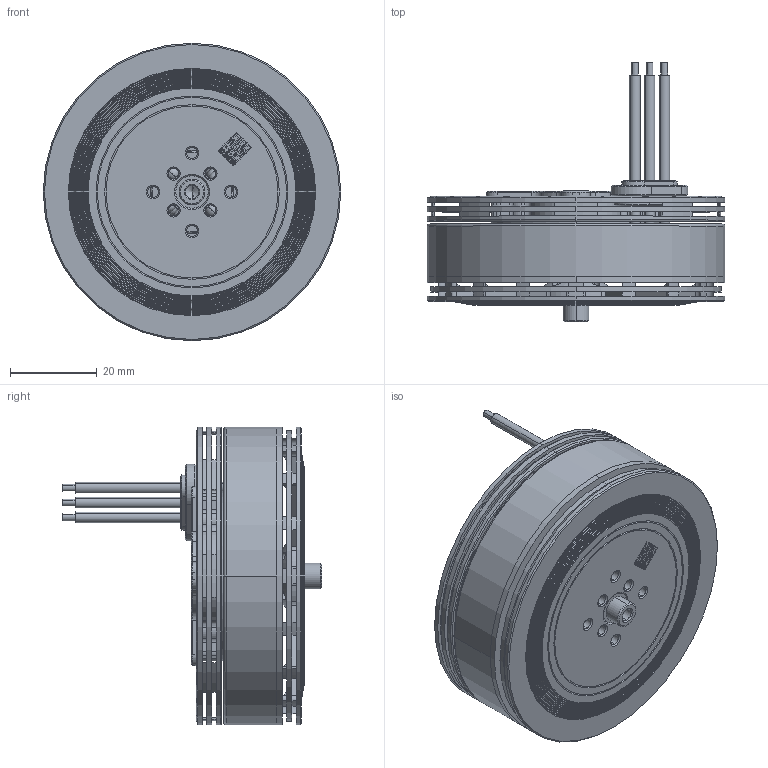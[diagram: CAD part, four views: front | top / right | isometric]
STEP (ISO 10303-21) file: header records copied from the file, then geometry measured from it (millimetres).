
FILE_DESCRIPTION (( 'STEP AP203' ), '1' );
FILE_NAME ('HM-6210萇儂3D-勤俋-231107.STEP', '2023-11-07T08:20:34', ( '' ), ( '' ), 'SwSTEP 2.0', 'SolidWorks 2021', '' );
FILE_SCHEMA (( 'CONFIG_CONTROL_DESIGN' ));
Products named in the file (1): HM-6210萇儂3D-勤俋-231107
Bounding box: 68.7 x 59.95 x 68.7 mm (x, y, z)
Volume: 47779.1 mm3; surface area: 42877.6 mm2
Topology: 14 solids, 16 shells, 2723 faces, 8260 edges, 5336 vertices
Faces by surface type: plane 1158, cylinder 897, cone 323, torus 196, bspline 109, sphere 40
Entity records: 108629 total; most frequent: CARTESIAN_POINT 33836, ORIENTED_EDGE 16220, DIRECTION 15935, EDGE_CURVE 8110, AXIS2_PLACEMENT_3D 5960, VERTEX_POINT 5256, LINE 4015, VECTOR 4015
